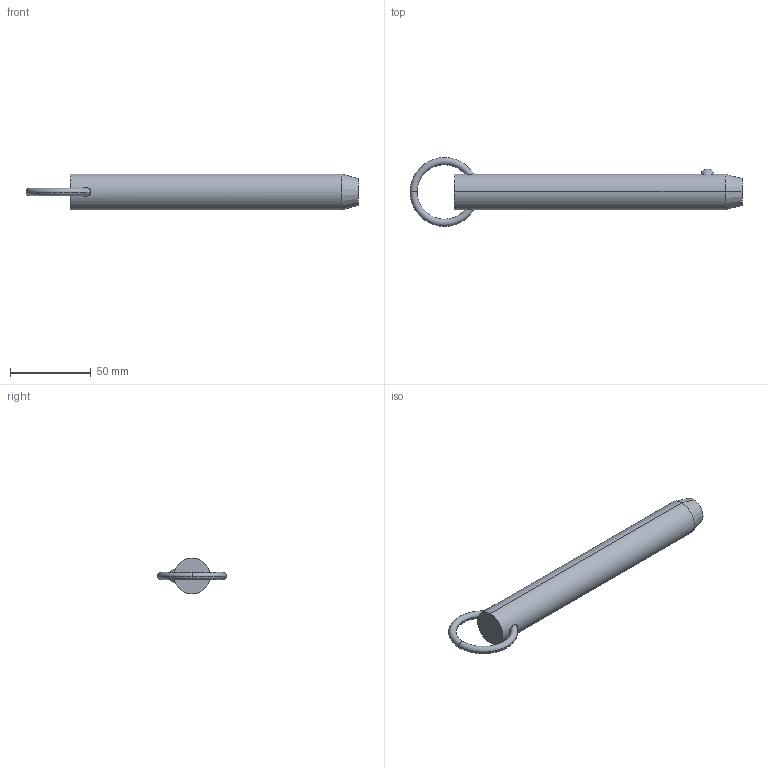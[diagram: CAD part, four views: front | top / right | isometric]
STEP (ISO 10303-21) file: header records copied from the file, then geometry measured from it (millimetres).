
FILE_DESCRIPTION (( 'STEP AP203' ), '1' );
FILE_NAME ('33010.W8855.step', '2024-11-01T10:46:28', ( '' ), ( '' ), 'SwSTEP 2.0', 'SolidWorks 2019', '' );
FILE_SCHEMA (( 'CONFIG_CONTROL_DESIGN' ));
Length unit declared in the file: millimetre
Products named in the file (3): Part1_33010.W8855; 33010.W8855; Part2_33010.W8855
Assembly tree (2 placements, depth 2):
  33010.W8855
    Part1_33010.W8855
    Part2_33010.W8855
Bounding box: 205.16 x 42.55 x 22.23 mm (x, y, z)
Volume: 69476.2 mm3; surface area: 15012.2 mm2
Topology: 2 solids, 2 shells, 16 faces, 31 edges, 18 vertices
Faces by surface type: torus 8, sphere 2, cone 2, cylinder 2, plane 2
Entity records: 903 total; most frequent: CARTESIAN_POINT 260, DIRECTION 88, ORIENTED_EDGE 62, AXIS2_PLACEMENT_3D 42, EDGE_CURVE 31, PERSON_AND_ORGANIZATION 26, CIRCLE 21, COORDINATED_UNIVERSAL_TIME_OFFSET 19
